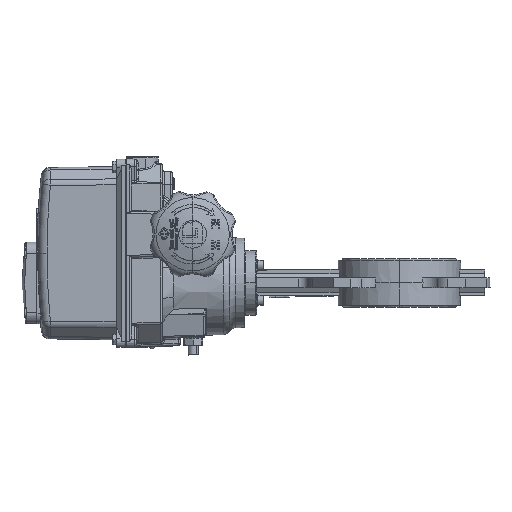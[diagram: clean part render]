
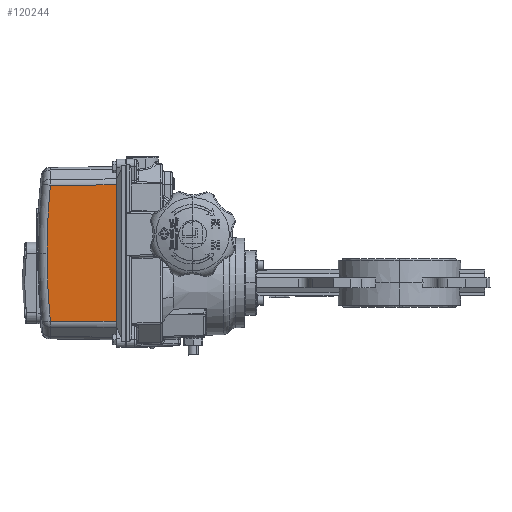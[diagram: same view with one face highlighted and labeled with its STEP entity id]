
A CAD part, left-side view. The second image highlights one B-rep face of the part: STEP entity #120244.
In plain terms, the highlighted planar face has unit normal (-1, 0.013, 0).
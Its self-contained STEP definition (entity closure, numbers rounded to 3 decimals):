
#891 = AXIS2_PLACEMENT_3D ( 'NONE', #45902, #17519, #74637 ) ;
#3838 = DIRECTION ( 'NONE',  ( 0.013, 1., 0. ) ) ;
#7600 = VERTEX_POINT ( 'NONE', #11332 ) ;
#9336 = CARTESIAN_POINT ( 'NONE',  ( -57.411, 275.826, 98.912 ) ) ;
#9428 = VECTOR ( 'NONE', #124955, 1000. ) ;
#9822 = ORIENTED_EDGE ( 'NONE', *, *, #36165, .T. ) ;
#11332 = CARTESIAN_POINT ( 'NONE',  ( -57.279, 285.7, 98.858 ) ) ;
#12645 = CIRCLE ( 'NONE', #19991, 688.92 ) ;
#17519 = DIRECTION ( 'NONE',  ( -1., 0.013, 0. ) ) ;
#17902 = EDGE_CURVE ( 'NONE', #100266, #62346, #60968, .T. ) ;
#19991 = AXIS2_PLACEMENT_3D ( 'NONE', #22869, #71517, #3838 ) ;
#22869 = CARTESIAN_POINT ( 'NONE',  ( -65.589, -333.385, 29.913 ) ) ;
#32822 = EDGE_CURVE ( 'NONE', #62346, #41040, #54420, .T. ) ;
#34175 = VECTOR ( 'NONE', #117524, 1000. ) ;
#34511 = CARTESIAN_POINT ( 'NONE',  ( -57.412, 275.734, -41.573 ) ) ;
#35261 = CARTESIAN_POINT ( 'NONE',  ( -56.388, 352.051, -38.663 ) ) ;
#36165 = EDGE_CURVE ( 'NONE', #36771, #100266, #12645, .T. ) ;
#36771 = VERTEX_POINT ( 'NONE', #38593 ) ;
#38593 = CARTESIAN_POINT ( 'NONE',  ( -56.388, 352.051, 98.489 ) ) ;
#40282 = LINE ( 'NONE', #9336, #34175 ) ;
#41040 = VERTEX_POINT ( 'NONE', #80692 ) ;
#44436 = ORIENTED_EDGE ( 'NONE', *, *, #88606, .T. ) ;
#45902 = CARTESIAN_POINT ( 'NONE',  ( -65.589, -333.385, 29.913 ) ) ;
#45954 = DIRECTION ( 'NONE',  ( 0.013, 1., 0. ) ) ;
#45986 = EDGE_CURVE ( 'NONE', #41040, #7600, #66968, .T. ) ;
#54420 = LINE ( 'NONE', #123332, #92367 ) ;
#60968 = CIRCLE ( 'NONE', #891, 688.92 ) ;
#62346 = VERTEX_POINT ( 'NONE', #35261 ) ;
#63846 = ORIENTED_EDGE ( 'NONE', *, *, #32822, .T. ) ;
#66968 = LINE ( 'NONE', #124525, #9428 ) ;
#66988 = CARTESIAN_POINT ( 'NONE',  ( -56.342, 355.473, 29.913 ) ) ;
#69427 = EDGE_LOOP ( 'NONE', ( #63846, #93688, #44436, #9822, #92770 ) ) ;
#71517 = DIRECTION ( 'NONE',  ( -1., 0.013, 0. ) ) ;
#74637 = DIRECTION ( 'NONE',  ( 0.013, 1., 0. ) ) ;
#80692 = CARTESIAN_POINT ( 'NONE',  ( -57.279, 285.7, -39.032 ) ) ;
#82785 = PLANE ( 'NONE',  #95996 ) ;
#88606 = EDGE_CURVE ( 'NONE', #7600, #36771, #40282, .T. ) ;
#88883 = FACE_OUTER_BOUND ( 'NONE', #69427, .T. ) ;
#92367 = VECTOR ( 'NONE', #94284, 1000. ) ;
#92770 = ORIENTED_EDGE ( 'NONE', *, *, #17902, .T. ) ;
#93688 = ORIENTED_EDGE ( 'NONE', *, *, #45986, .T. ) ;
#94284 = DIRECTION ( 'NONE',  ( -0.013, -1., -0.006 ) ) ;
#95996 = AXIS2_PLACEMENT_3D ( 'NONE', #34511, #103066, #45954 ) ;
#100266 = VERTEX_POINT ( 'NONE', #66988 ) ;
#103066 = DIRECTION ( 'NONE',  ( -1., 0.013, 0. ) ) ;
#117524 = DIRECTION ( 'NONE',  ( 0.013, 1., -0.006 ) ) ;
#120244 = ADVANCED_FACE ( 'NONE', ( #88883 ), #82785, .T. ) ;
#123332 = CARTESIAN_POINT ( 'NONE',  ( -57.413, 275.72, -39.088 ) ) ;
#124525 = CARTESIAN_POINT ( 'NONE',  ( -57.279, 285.7, -41.573 ) ) ;
#124955 = DIRECTION ( 'NONE',  ( 0., 0., 1. ) ) ;
